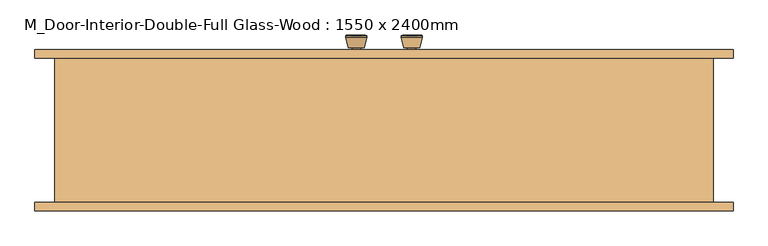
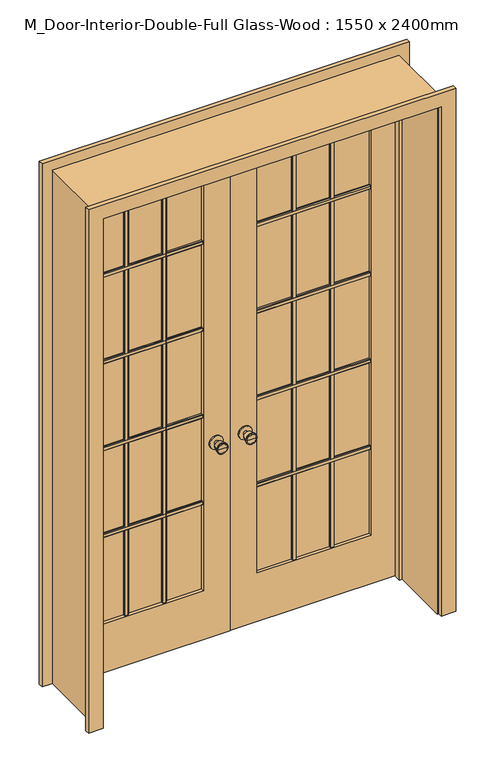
"""IFC4 building model written with IfcOpenShell, lengths in millimetres: door geometry, M_Door-Interior-Double-Full Glass-Wood : 1550 x 2400mm."""

import ifcopenshell
import ifcopenshell.guid

model = None  # the IFC model being written
_history = None  # IfcOwnerHistory: only IFC2X3 demands one
_inside = {}  # id of a spatial element -> (the spatial element, [elements in it])
_under = {}  # id of a project, library or spatial element -> (it, [spatial elements below it])
_declared = {}  # id of a project -> (the project, [libraries it declares])
_typed = {}  # id of a type object -> (the type object, [elements of that type])
_made_of = {}  # id of a material, layer set ... -> (it, [elements and type objects made of it])


def new_model(schema):
    """Start an empty IFC model of exactly this schema.

    Asked for "IFC4X3", IfcOpenShell would pick the latest addendum, in which some entities
    have other attributes; the version numbers below select the first issue.
    IFC2X3 requires an IfcOwnerHistory on every rooted entity: one is made here for all.
    """
    global model, _history
    if schema == "IFC4X3":
        model = ifcopenshell.file(schema_version=(4, 3, 0, 0))
    else:
        model = ifcopenshell.file(schema=schema)
    _inside.clear()
    _under.clear()
    _declared.clear()
    _typed.clear()
    _made_of.clear()
    _history = None
    if model.schema == "IFC2X3":
        org = make("IfcOrganization", Name="unknown")
        user = make(
            "IfcPersonAndOrganization",
            ThePerson=make("IfcPerson", FamilyName="unknown"),
            TheOrganization=org,
        )
        app = make(
            "IfcApplication",
            ApplicationDeveloper=org,
            Version="unknown",
            ApplicationFullName="unknown",
            ApplicationIdentifier="unknown",
        )
        _history = make(
            "IfcOwnerHistory",
            OwningUser=user,
            OwningApplication=app,
            ChangeAction="ADDED",
            CreationDate=0,
        )
    return model


def make(cls, **values):
    """One entity of the class cls with the attributes given. An attribute that is None is left unset."""
    return model.create_entity(
        cls, **{name: value for name, value in values.items() if value is not None}
    )


def rooted(cls, **values):
    """An entity with a GlobalId (a new one), such as an element, a storey or a relation."""
    return make(cls, GlobalId=ifcopenshell.guid.new(), OwnerHistory=_history, **values)


def si_unit(unit_type, name, prefix=None):
    """IfcSIUnit, for example si_unit("LENGTHUNIT", "METRE", prefix="MILLI")."""
    return make("IfcSIUnit", UnitType=unit_type, Prefix=prefix, Name=name)


def assignment(units):
    """IfcUnitAssignment: the units of a project."""
    return None if units is None else make("IfcUnitAssignment", Units=units)


def point(xyz):
    """IfcCartesianPoint."""
    return None if xyz is None else make("IfcCartesianPoint", Coordinates=xyz)


def direction(xyz):
    """IfcDirection."""
    return None if xyz is None else make("IfcDirection", DirectionRatios=xyz)


def frame(location, z_axis=None, x_axis=None):
    """IfcAxis2Placement3D, a coordinate frame: its origin and axes. An axis left out is left unset."""
    return make(
        "IfcAxis2Placement3D",
        Location=point(location),
        Axis=direction(z_axis),
        RefDirection=direction(x_axis),
    )


def frame_2d(location, x_axis=None):
    """IfcAxis2Placement2D, a coordinate frame in the plane: its origin and x axis."""
    return make(
        "IfcAxis2Placement2D", Location=point(location), RefDirection=direction(x_axis)
    )


def origin():
    """The frame at (0, 0, 0) with its axes left unset."""
    return frame((0.0, 0.0, 0.0))


def place(relative_to, where):
    """IfcLocalPlacement: puts the frame where relative to a parent placement (None: the world)."""
    return make(
        "IfcLocalPlacement", PlacementRelTo=relative_to, RelativePlacement=where
    )


def context(
    kind, dimensions, precision=None, world=None, true_north=None, identifier=None
):
    """IfcGeometricRepresentationContext, for example the 3D "Model" context."""
    return make(
        "IfcGeometricRepresentationContext",
        ContextIdentifier=identifier,
        ContextType=kind,
        CoordinateSpaceDimension=dimensions,
        Precision=precision,
        WorldCoordinateSystem=world,
        TrueNorth=true_north,
    )


def project(units=None, contexts=None):
    """IfcProject with its units and contexts."""
    return rooted(
        "IfcProject",
        Name="project",
        RepresentationContexts=contexts,
        UnitsInContext=assignment(units),
    )


def spatial(cls, under=None, at=None, **own):
    """A site, building, storey or space (cls), placed at a placement, below another one or the project."""
    s = rooted(cls, ObjectPlacement=at, **own)
    if under is not None:
        _under.setdefault(under.id(), (under, []))[1].append(s)
    return s


def polyline(points):
    """IfcPolyline through the points."""
    return make("IfcPolyline", Points=[point(p) for p in points])


def circle_curve(where, radius):
    """IfcCircle in the frame where."""
    return make("IfcCircle", Position=where, Radius=radius)


def trimmed(basis, trim1, trim2, sense, master):
    """IfcTrimmedCurve: the piece of a basis curve between two trims."""
    return make(
        "IfcTrimmedCurve",
        BasisCurve=basis,
        Trim1=trim1,
        Trim2=trim2,
        SenseAgreement=sense,
        MasterRepresentation=master,
    )


def segment(curve, same_sense, transition):
    """IfcCompositeCurveSegment."""
    return make(
        "IfcCompositeCurveSegment",
        Transition=transition,
        SameSense=same_sense,
        ParentCurve=curve,
    )


def composite_curve(segments, self_intersect=None):
    """IfcCompositeCurve: segments joined end to end."""
    return make("IfcCompositeCurve", Segments=segments, SelfIntersect=self_intersect)


def outline(outer, holes=None, kind="AREA"):
    """IfcArbitraryClosedProfileDef: a profile drawn as a closed curve; with holes, ...WithVoids."""
    if holes is None:
        return make("IfcArbitraryClosedProfileDef", ProfileType=kind, OuterCurve=outer)
    return make(
        "IfcArbitraryProfileDefWithVoids",
        ProfileType=kind,
        OuterCurve=outer,
        InnerCurves=holes,
    )


def extrude(swept, where, along, depth):
    """IfcExtrudedAreaSolid: the profile swept, set in the frame where, extruded along a direction by depth."""
    return make(
        "IfcExtrudedAreaSolid",
        SweptArea=swept,
        Position=where,
        ExtrudedDirection=direction(along),
        Depth=depth,
    )


def faces_of(points, faces, orient=None, outer=None):
    """IfcFace entities. A face is a list of loops; a loop is a list of indices into points, from 0.

    orient and outer hold one flag for each loop. By default every Orientation is true, the
    first loop of a face is its IfcFaceOuterBound and the others are IfcFaceBound.
    """
    made = []
    for i, loops in enumerate(faces):
        bounds = []
        for j, loop in enumerate(loops):
            is_outer = j == 0 if outer is None else outer[i][j]
            bounds.append(
                make(
                    "IfcFaceOuterBound" if is_outer else "IfcFaceBound",
                    Bound=make("IfcPolyLoop", Polygon=[points[k] for k in loop]),
                    Orientation=True if orient is None else orient[i][j],
                )
            )
        made.append(make("IfcFace", Bounds=bounds))
    return made


def faceted_brep(points, faces, orient=None, outer=None, voids=None):
    """IfcFacetedBrep: a solid bounded by flat faces; with voids (closed shells), ...WithVoids."""
    shared = [point(p) for p in points]
    hull = make("IfcClosedShell", CfsFaces=faces_of(shared, faces, orient, outer))
    if voids is None:
        return make("IfcFacetedBrep", Outer=hull)
    return make(
        "IfcFacetedBrepWithVoids",
        Outer=hull,
        Voids=[
            make(cls, CfsFaces=faces_of(shared, fs, o, b)) for cls, fs, o, b in voids
        ],
    )


def shape(context_of_items, identifier, shape_type, items):
    """IfcShapeRepresentation: the items that make up one representation, for example the "Body"."""
    return make(
        "IfcShapeRepresentation",
        ContextOfItems=context_of_items,
        RepresentationIdentifier=identifier,
        RepresentationType=shape_type,
        Items=items,
    )


def source(mapping_origin, context_of_items, identifier, shape_type, items):
    """IfcRepresentationMap: a shape defined once, which mapped items show again and again."""
    return make(
        "IfcRepresentationMap",
        MappingOrigin=mapping_origin,
        MappedRepresentation=shape(context_of_items, identifier, shape_type, items),
    )


def transform(
    local_origin,
    x_axis=None,
    y_axis=None,
    z_axis=None,
    scale=None,
    scale2=None,
    scale3=None,
    uniform=True,
):
    """IfcCartesianTransformationOperator3D, or its non-uniform kind. x_axis, y_axis, z_axis: its Axis1, 2, 3."""
    if uniform:
        return make(
            "IfcCartesianTransformationOperator3D",
            Axis1=direction(x_axis),
            Axis2=direction(y_axis),
            LocalOrigin=point(local_origin),
            Scale=scale,
            Axis3=direction(z_axis),
        )
    return make(
        "IfcCartesianTransformationOperator3DnonUniform",
        Axis1=direction(x_axis),
        Axis2=direction(y_axis),
        LocalOrigin=point(local_origin),
        Scale=scale,
        Axis3=direction(z_axis),
        Scale2=scale2,
        Scale3=scale3,
    )


def mapped(mapping_source, mapping_target):
    """IfcMappedItem: shows the shape of a source again, moved by a transform."""
    return make(
        "IfcMappedItem", MappingSource=mapping_source, MappingTarget=mapping_target
    )


def made_of(thing, what):
    """Note that an element or type object is made of a material, layer set ...; save() writes the relation."""
    if what is not None:
        _made_of.setdefault(what.id(), (what, []))[1].append(thing)
    return thing


def element(
    cls,
    number,
    at=None,
    inside=None,
    cuts=None,
    type_object=None,
    material=None,
    context=None,
    identifier="Body",
    shape_type=None,
    held_by="IfcProductDefinitionShape",
    body=None,
    shapes=None,
    **own,
):
    """One element of the class cls, such as IfcWall. Its Tag is "e" and its number.

    at: its placement. inside: the storey or other place that contains it. cuts: it is an
    opening in that element (IfcRelVoidsElement). A single representation is given by context,
    identifier, shape_type and body (its items); several are given by shapes. held_by: the class
    of the entity that holds the representations. save() writes the other relations.
    """
    e = rooted(cls, Tag="e%d" % number, ObjectPlacement=at, **own)
    if body is not None:
        shapes = [shape(context, identifier, shape_type, body)]
    if shapes is not None:
        e.Representation = make(held_by, Representations=shapes)
    if inside is not None:
        _inside.setdefault(inside.id(), (inside, []))[1].append(e)
    if cuts is not None:
        rooted(
            "IfcRelVoidsElement", RelatingBuildingElement=cuts, RelatedOpeningElement=e
        )
    if type_object is not None:
        _typed.setdefault(type_object.id(), (type_object, []))[1].append(e)
    return made_of(e, material)


def aggregate(whole, parts):
    """IfcRelAggregates: a whole, such as a stair, and the parts it consists of."""
    return rooted("IfcRelAggregates", RelatingObject=whole, RelatedObjects=parts)


def save(model, path):
    """Write the relations noted so far, then the file.

    IfcRelAggregates (storeys below a building ...), IfcRelContainedInSpatialStructure (elements
    in a storey), IfcRelDefinesByType, IfcRelAssociatesMaterial and IfcRelDeclares: one each for
    every whole, place, type object, material and project.
    """
    for whole, parts in _under.values():
        aggregate(whole, parts)
    for where, things in _inside.values():
        rooted(
            "IfcRelContainedInSpatialStructure",
            RelatedElements=things,
            RelatingStructure=where,
        )
    for kind, things in _typed.values():
        rooted("IfcRelDefinesByType", RelatedObjects=things, RelatingType=kind)
    for what, things in _made_of.values():
        rooted("IfcRelAssociatesMaterial", RelatedObjects=things, RelatingMaterial=what)
    for by, libraries in _declared.values():
        rooted("IfcRelDeclares", RelatingContext=by, RelatedDefinitions=libraries)
    model.write(path)


def plane_surface(at):
    """IfcPlane: the flat surface through the origin of the frame at, square to its z axis."""
    return make("IfcPlane", Position=at)


def cylinder_surface(at, radius):
    """IfcCylindricalSurface: all points at the distance radius from the z axis of the frame at."""
    return make("IfcCylindricalSurface", Position=at, Radius=radius)


def revolved_surface(curve, axis_point, axis_direction):
    """IfcSurfaceOfRevolution: the curve turned about the line through axis_point along axis_direction."""
    return make(
        "IfcSurfaceOfRevolution",
        SweptCurve=make("IfcArbitraryOpenProfileDef", ProfileType="CURVE", Curve=curve),
        AxisPosition=make("IfcAxis1Placement", Location=point(axis_point), Axis=direction(axis_direction)),
    )


def advanced_brep(points, edges, surfaces, faces):
    """IfcAdvancedBrep: a solid bounded by faces that lie on surfaces and meet in shared edges.

    An edge is (start, end): straight between two places in points (the first is 0);
    or (start, end, curve); or (start, end, curve, False) where it runs against its curve.
    A face is (place in surfaces, loops), or (place, loops, False) where it looks against
    its surface's normal. A loop lists edges by number (the first is 1), with a minus sign
    where the edge is run from its end to its start. The first loop is the outer one.
    """
    corners = [point(p) for p in points]
    vertices = [make("IfcVertexPoint", VertexGeometry=c) for c in corners]
    made = []
    for start, end, *more in edges:
        made.append(
            make(
                "IfcEdgeCurve",
                EdgeStart=vertices[start],
                EdgeEnd=vertices[end],
                EdgeGeometry=more[0] if more else make("IfcPolyline", Points=[corners[start], corners[end]]),
                SameSense=more[1] if len(more) > 1 else True,
            )
        )
    hull = []
    for where, loops, *sense in faces:
        bounds = []
        for j, loop in enumerate(loops):
            ring = [make("IfcOrientedEdge", EdgeElement=made[abs(k) - 1], Orientation=k > 0) for k in loop]
            bounds.append(
                make(
                    "IfcFaceOuterBound" if j == 0 else "IfcFaceBound",
                    Bound=make("IfcEdgeLoop", EdgeList=ring),
                    Orientation=True,
                )
            )
        hull.append(make("IfcAdvancedFace", Bounds=bounds, FaceSurface=surfaces[where], SameSense=sense[0] if sense else True))
    return make("IfcAdvancedBrep", Outer=make("IfcClosedShell", CfsFaces=hull))


def m_door_interior_double_full_glass_wood_1550_x_2400mm_287b3f01(model_context):
    return source(origin(), model_context, "Body", "SolidModel", [
        advanced_brep(
        [(-65.0, 172.825, 914.4), (-75.0, 172.825, 914.4), (-55.0, 172.825, 914.4), (-85.4758676, 221.825, 914.4), (-65.0, 221.825, 914.4), (-44.5241324, 221.825, 914.4), (-90.0, 219.9971319, 914.4), (-40.0, 219.9971319, 914.4), (-90.0, 216.5334537, 914.4), (-40.0, 216.5334537, 914.4), (-83.636236, 191.825, 914.4), (-46.363764, 191.825, 914.4), (-75.0, 191.825, 914.4), (-55.0, 191.825, 914.4)],
        [
            (0, 1),
            (1, 2, circle_curve(frame((-65.0, 172.825, 914.4), z_axis=(0.0, -1.0, 0.0), x_axis=(1.0, 0.0, 0.0)), 10.0)),
            (2, 0),
            (2, 1, circle_curve(frame((-65.0, 172.825, 914.4), z_axis=(0.0, -1.0, 0.0), x_axis=(1.0, 0.0, 0.0)), 10.0)),
            (3, 4),
            (4, 5),
            (5, 3, circle_curve(frame((-65.0, 221.825, 914.4), z_axis=(0.0, 1.0, 0.0), x_axis=(1.0, 0.0, 0.0)), 20.4758676)),
            (3, 5, circle_curve(frame((-65.0, 221.825, 914.4), z_axis=(0.0, 1.0, 0.0), x_axis=(1.0, 0.0, 0.0)), 20.4758676)),
            (6, 3),
            (5, 7),
            (7, 6, circle_curve(frame((-65.0, 219.9971319, 914.4), z_axis=(0.0, 1.0, 0.0), x_axis=(1.0, 0.0, 0.0)), 25.0)),
            (6, 7, circle_curve(frame((-65.0, 219.9971319, 914.4), z_axis=(0.0, 1.0, 0.0), x_axis=(1.0, 0.0, 0.0)), 25.0)),
            (8, 6),
            (7, 9),
            (9, 8, circle_curve(frame((-65.0, 216.5334537, 914.4), z_axis=(0.0, 1.0, 0.0), x_axis=(1.0, 0.0, 0.0)), 25.0)),
            (8, 9, circle_curve(frame((-65.0, 216.5334537, 914.4), z_axis=(0.0, 1.0, 0.0), x_axis=(1.0, 0.0, 0.0)), 25.0)),
            (10, 8),
            (9, 11),
            (11, 10, circle_curve(frame((-65.0, 191.825, 914.4), z_axis=(0.0, 1.0, 0.0), x_axis=(1.0, 0.0, 0.0)), 18.636236)),
            (10, 11, circle_curve(frame((-65.0, 191.825, 914.4), z_axis=(0.0, 1.0, 0.0), x_axis=(1.0, 0.0, 0.0)), 18.636236)),
            (12, 10),
            (11, 13),
            (13, 12, circle_curve(frame((-65.0, 191.825, 914.4), z_axis=(0.0, 1.0, 0.0), x_axis=(1.0, 0.0, 0.0)), 10.0)),
            (12, 13, circle_curve(frame((-65.0, 191.825, 914.4), z_axis=(0.0, 1.0, 0.0), x_axis=(1.0, 0.0, 0.0)), 10.0)),
            (1, 12),
            (13, 2),
        ],
        [
            plane_surface(frame((-65.0, 172.825, 914.4), z_axis=(0.0, -1.0, 0.0), x_axis=(1.0, 0.0, 0.0))),
            plane_surface(frame((-65.0, 221.825, 914.4), z_axis=(0.0, 1.0, 0.0), x_axis=(1.0, 0.0, 0.0))),
            revolved_surface(polyline([(-44.5241324, 221.825, 914.4), (-40.0, 219.9971319, 914.4)]), (-65.0, 172.825, 914.4), (0.0, -1.0, 0.0)),
            cylinder_surface(frame((-65.0, 172.825, 914.4), z_axis=(0.0, -1.0, 0.0), x_axis=(1.0, 0.0, 0.0)), 25.0),
            revolved_surface(polyline([(-40.0, 216.5334537, 914.4), (-46.363764, 191.825, 914.4)]), (-65.0, 172.825, 914.4), (0.0, -1.0, 0.0)),
            plane_surface(frame((-65.0, 191.825, 914.4), z_axis=(0.0, -1.0, 0.0), x_axis=(1.0, 0.0, 0.0))),
            cylinder_surface(frame((-65.0, 172.825, 914.4), z_axis=(0.0, -1.0, 0.0), x_axis=(1.0, 0.0, 0.0)), 10.0),
        ],
        [
            (0, [[1, 2, 3]]),
            (0, [[-3, 4, -1]]),
            (1, [[5, 6, 7]]),
            (1, [[-6, -5, 8]]),
            (2, [[9, -7, 10, 11]]),
            (2, [[-10, -8, -9, 12]]),
            (3, [[13, -11, 14, 15]]),
            (3, [[-14, -12, -13, 16]]),
            (4, [[17, -15, 18, 19]]),
            (4, [[-18, -16, -17, 20]]),
            (5, [[21, -19, 22, 23]]),
            (5, [[-22, -20, -21, 24]]),
            (6, [[25, -23, 26, -2]]),
            (6, [[-26, -24, -25, -4]]),
        ],
    ),
        extrude(outline(composite_curve([segment(trimmed(circle_curve(frame_2d((914.4, -65.0)), 30.0), [point((914.4, -35.0))], [point((914.4, -95.0))], False, "CARTESIAN"), True, "CONTINUOUS"), segment(trimmed(circle_curve(frame_2d((914.4, -65.0)), 30.0), [point((914.4, -95.0))], [point((914.4, -35.0))], False, "CARTESIAN"), True, "CONTINUOUS")], self_intersect=False)), frame((0.0, 166.825, 0.0), z_axis=(0.0, 1.0, 0.0), x_axis=(0.0, 0.0, 1.0)), (0.0, 0.0, 1.0), 6.0),
        advanced_brep(
        [(-65.0, 125.825, 914.4), (-55.0, 125.825, 914.4), (-75.0, 125.825, 914.4), (-85.4758676, 76.825, 914.4), (-44.5241324, 76.825, 914.4), (-65.0, 76.825, 914.4), (-90.0, 78.6528681, 914.4), (-40.0, 78.6528681, 914.4), (-90.0, 82.1165463, 914.4), (-40.0, 82.1165463, 914.4), (-83.636236, 106.825, 914.4), (-46.363764, 106.825, 914.4), (-75.0, 106.825, 914.4), (-55.0, 106.825, 914.4)],
        [
            (0, 1),
            (1, 2, circle_curve(frame((-65.0, 125.825, 914.4), z_axis=(0.0, 1.0, 0.0), x_axis=(1.0, 0.0, 0.0)), 10.0)),
            (2, 0),
            (2, 1, circle_curve(frame((-65.0, 125.825, 914.4), z_axis=(0.0, 1.0, 0.0), x_axis=(1.0, 0.0, 0.0)), 10.0)),
            (3, 4, circle_curve(frame((-65.0, 76.825, 914.4), z_axis=(0.0, -1.0, 0.0), x_axis=(1.0, 0.0, 0.0)), 20.4758676)),
            (4, 5),
            (5, 3),
            (4, 3, circle_curve(frame((-65.0, 76.825, 914.4), z_axis=(0.0, -1.0, 0.0), x_axis=(1.0, 0.0, 0.0)), 20.4758676)),
            (6, 7, circle_curve(frame((-65.0, 78.6528681, 914.4), z_axis=(0.0, -1.0, 0.0), x_axis=(1.0, 0.0, 0.0)), 25.0)),
            (7, 4),
            (3, 6),
            (7, 6, circle_curve(frame((-65.0, 78.6528681, 914.4), z_axis=(0.0, -1.0, 0.0), x_axis=(1.0, 0.0, 0.0)), 25.0)),
            (8, 9, circle_curve(frame((-65.0, 82.1165463, 914.4), z_axis=(0.0, -1.0, 0.0), x_axis=(1.0, 0.0, 0.0)), 25.0)),
            (9, 7),
            (6, 8),
            (9, 8, circle_curve(frame((-65.0, 82.1165463, 914.4), z_axis=(0.0, -1.0, 0.0), x_axis=(1.0, 0.0, 0.0)), 25.0)),
            (10, 11, circle_curve(frame((-65.0, 106.825, 914.4), z_axis=(0.0, -1.0, 0.0), x_axis=(1.0, 0.0, 0.0)), 18.636236)),
            (11, 9),
            (8, 10),
            (11, 10, circle_curve(frame((-65.0, 106.825, 914.4), z_axis=(0.0, -1.0, 0.0), x_axis=(1.0, 0.0, 0.0)), 18.636236)),
            (12, 13, circle_curve(frame((-65.0, 106.825, 914.4), z_axis=(0.0, -1.0, 0.0), x_axis=(1.0, 0.0, 0.0)), 10.0)),
            (13, 11),
            (10, 12),
            (13, 12, circle_curve(frame((-65.0, 106.825, 914.4), z_axis=(0.0, -1.0, 0.0), x_axis=(1.0, 0.0, 0.0)), 10.0)),
            (1, 13),
            (12, 2),
        ],
        [
            plane_surface(frame((-65.0, 125.825, 914.4), z_axis=(0.0, 1.0, 0.0), x_axis=(1.0, 0.0, 0.0))),
            plane_surface(frame((-65.0, 76.825, 914.4), z_axis=(0.0, -1.0, 0.0), x_axis=(1.0, 0.0, 0.0))),
            revolved_surface(polyline([(-44.5241324, 76.825, 914.4), (-40.0, 78.6528681, 914.4)]), (-65.0, 125.825, 914.4), (0.0, 1.0, 0.0)),
            cylinder_surface(frame((-65.0, 125.825, 914.4), z_axis=(0.0, 1.0, 0.0), x_axis=(1.0, 0.0, 0.0)), 25.0),
            revolved_surface(polyline([(-40.0, 82.1165463, 914.4), (-46.363764, 106.825, 914.4)]), (-65.0, 125.825, 914.4), (0.0, 1.0, 0.0)),
            plane_surface(frame((-65.0, 106.825, 914.4), z_axis=(0.0, 1.0, 0.0), x_axis=(1.0, 0.0, 0.0))),
            cylinder_surface(frame((-65.0, 125.825, 914.4), z_axis=(0.0, 1.0, 0.0), x_axis=(1.0, 0.0, 0.0)), 10.0),
        ],
        [
            (0, [[1, 2, 3]]),
            (0, [[-3, 4, -1]]),
            (1, [[5, 6, 7]]),
            (1, [[8, -7, -6]]),
            (2, [[9, 10, -5, 11]]),
            (2, [[12, -11, -8, -10]]),
            (3, [[13, 14, -9, 15]]),
            (3, [[16, -15, -12, -14]]),
            (4, [[17, 18, -13, 19]]),
            (4, [[20, -19, -16, -18]]),
            (5, [[21, 22, -17, 23]]),
            (5, [[24, -23, -20, -22]]),
            (6, [[-2, 25, -21, 26]]),
            (6, [[-4, -26, -24, -25]]),
        ],
    ),
        extrude(outline(composite_curve([segment(trimmed(circle_curve(frame_2d((914.4, -65.0)), 30.0), [point((914.4, -35.0))], [point((914.4, -95.0))], False, "CARTESIAN"), True, "CONTINUOUS"), segment(trimmed(circle_curve(frame_2d((914.4, -65.0)), 30.0), [point((914.4, -95.0))], [point((914.4, -35.0))], False, "CARTESIAN"), True, "CONTINUOUS")], self_intersect=False)), frame((0.0, 125.825, 0.0), z_axis=(0.0, 1.0, 0.0), x_axis=(0.0, 0.0, 1.0)), (0.0, 0.0, 1.0), 6.0),
        extrude(outline(polyline([(145.825, 1879.525), (145.825, 1860.475), (139.475, 1860.475), (136.3, 1863.65), (136.3, 1876.35), (139.475, 1879.525), (145.825, 1879.525)])), frame((120.0, 0.0, 0.0), z_axis=(1.0, 0.0, 0.0), x_axis=(0.0, 1.0, 0.0)), (0.0, 0.0, 1.0), 510.0),
        extrude(outline(polyline([(145.825, 1469.525), (145.825, 1450.475), (139.475, 1450.475), (136.3, 1453.65), (136.3, 1466.35), (139.475, 1469.525), (145.825, 1469.525)])), frame((120.0, 0.0, 0.0), z_axis=(1.0, 0.0, 0.0), x_axis=(0.0, 1.0, 0.0)), (0.0, 0.0, 1.0), 510.0),
        extrude(outline(polyline([(145.825, 1059.525), (145.825, 1040.475), (139.475, 1040.475), (136.3, 1043.65), (136.3, 1056.35), (139.475, 1059.525), (145.825, 1059.525)])), frame((120.0, 0.0, 0.0), z_axis=(1.0, 0.0, 0.0), x_axis=(0.0, 1.0, 0.0)), (0.0, 0.0, 1.0), 510.0),
        extrude(outline(polyline([(145.825, 649.525), (145.825, 630.475), (139.475, 630.475), (136.3, 633.65), (136.3, 646.35), (139.475, 649.525), (145.825, 649.525)])), frame((120.0, 0.0, 0.0), z_axis=(1.0, 0.0, 0.0), x_axis=(0.0, 1.0, 0.0)), (0.0, 0.0, 1.0), 510.0),
        extrude(outline(polyline([(450.475, 145.825), (469.525, 145.825), (469.525, 139.475), (466.35, 136.3), (453.65, 136.3), (450.475, 139.475), (450.475, 145.825)])), frame((0.0, 0.0, 230.0), z_axis=(0.0, 0.0, 1.0), x_axis=(1.0, 0.0, 0.0)), (0.0, 0.0, 1.0), 2050.0),
        extrude(outline(polyline([(280.475, 145.825), (299.525, 145.825), (299.525, 139.475), (296.35, 136.3), (283.65, 136.3), (280.475, 139.475), (280.475, 145.825)])), frame((0.0, 0.0, 230.0), z_axis=(0.0, 0.0, 1.0), x_axis=(1.0, 0.0, 0.0)), (0.0, 0.0, 1.0), 2050.0),
        extrude(outline(polyline([(152.825, 1879.525), (159.175, 1879.525), (162.35, 1876.35), (162.35, 1863.65), (159.175, 1860.475), (152.825, 1860.475), (152.825, 1879.525)])), frame((-630.0, 0.0, 0.0), z_axis=(1.0, 0.0, 0.0), x_axis=(0.0, 1.0, 0.0)), (0.0, 0.0, 1.0), 510.0),
        extrude(outline(polyline([(152.825, 1469.525), (159.175, 1469.525), (162.35, 1466.35), (162.35, 1453.65), (159.175, 1450.475), (152.825, 1450.475), (152.825, 1469.525)])), frame((-630.0, 0.0, 0.0), z_axis=(1.0, 0.0, 0.0), x_axis=(0.0, 1.0, 0.0)), (0.0, 0.0, 1.0), 510.0),
        extrude(outline(polyline([(152.825, 1059.525), (159.175, 1059.525), (162.35, 1056.35), (162.35, 1043.65), (159.175, 1040.475), (152.825, 1040.475), (152.825, 1059.525)])), frame((-630.0, 0.0, 0.0), z_axis=(1.0, 0.0, 0.0), x_axis=(0.0, 1.0, 0.0)), (0.0, 0.0, 1.0), 510.0),
        extrude(outline(polyline([(152.825, 649.525), (159.175, 649.525), (162.35, 646.35), (162.35, 633.65), (159.175, 630.475), (152.825, 630.475), (152.825, 649.525)])), frame((-630.0, 0.0, 0.0), z_axis=(1.0, 0.0, 0.0), x_axis=(0.0, 1.0, 0.0)), (0.0, 0.0, 1.0), 510.0),
        extrude(outline(polyline([(-299.525, 152.825), (-299.525, 159.175), (-296.35, 162.35), (-283.65, 162.35), (-280.475, 159.175), (-280.475, 152.825), (-299.525, 152.825)])), frame((0.0, 0.0, 230.0), z_axis=(0.0, 0.0, 1.0), x_axis=(1.0, 0.0, 0.0)), (0.0, 0.0, 1.0), 2050.0),
        extrude(outline(polyline([(-469.525, 152.825), (-469.525, 159.175), (-466.35, 162.35), (-453.65, 162.35), (-450.475, 159.175), (-450.475, 152.825), (-469.525, 152.825)])), frame((0.0, 0.0, 230.0), z_axis=(0.0, 0.0, 1.0), x_axis=(1.0, 0.0, 0.0)), (0.0, 0.0, 1.0), 2050.0),
        extrude(outline(polyline([(152.825, 1879.525), (159.175, 1879.525), (162.35, 1876.35), (162.35, 1863.65), (159.175, 1860.475), (152.825, 1860.475), (152.825, 1879.525)])), frame((120.0, 0.0, 0.0), z_axis=(1.0, 0.0, 0.0), x_axis=(0.0, 1.0, 0.0)), (0.0, 0.0, 1.0), 510.0),
        extrude(outline(polyline([(152.825, 1469.525), (159.175, 1469.525), (162.35, 1466.35), (162.35, 1453.65), (159.175, 1450.475), (152.825, 1450.475), (152.825, 1469.525)])), frame((120.0, 0.0, 0.0), z_axis=(1.0, 0.0, 0.0), x_axis=(0.0, 1.0, 0.0)), (0.0, 0.0, 1.0), 510.0),
        extrude(outline(polyline([(152.825, 1059.525), (159.175, 1059.525), (162.35, 1056.35), (162.35, 1043.65), (159.175, 1040.475), (152.825, 1040.475), (152.825, 1059.525)])), frame((120.0, 0.0, 0.0), z_axis=(1.0, 0.0, 0.0), x_axis=(0.0, 1.0, 0.0)), (0.0, 0.0, 1.0), 510.0),
        extrude(outline(polyline([(152.825, 649.525), (159.175, 649.525), (162.35, 646.35), (162.35, 633.65), (159.175, 630.475), (152.825, 630.475), (152.825, 649.525)])), frame((120.0, 0.0, 0.0), z_axis=(1.0, 0.0, 0.0), x_axis=(0.0, 1.0, 0.0)), (0.0, 0.0, 1.0), 510.0),
        extrude(outline(polyline([(450.475, 152.825), (450.475, 159.175), (453.65, 162.35), (466.35, 162.35), (469.525, 159.175), (469.525, 152.825), (450.475, 152.825)])), frame((0.0, 0.0, 230.0), z_axis=(0.0, 0.0, 1.0), x_axis=(1.0, 0.0, 0.0)), (0.0, 0.0, 1.0), 2050.0),
        extrude(outline(polyline([(280.475, 152.825), (280.475, 159.175), (283.65, 162.35), (296.35, 162.35), (299.525, 159.175), (299.525, 152.825), (280.475, 152.825)])), frame((0.0, 0.0, 230.0), z_axis=(0.0, 0.0, 1.0), x_axis=(1.0, 0.0, 0.0)), (0.0, 0.0, 1.0), 2050.0),
        extrude(outline(polyline([(145.825, 1879.525), (145.825, 1860.475), (139.475, 1860.475), (136.3, 1863.65), (136.3, 1876.35), (139.475, 1879.525), (145.825, 1879.525)])), frame((-630.0, 0.0, 0.0), z_axis=(1.0, 0.0, 0.0), x_axis=(0.0, 1.0, 0.0)), (0.0, 0.0, 1.0), 510.0),
        extrude(outline(polyline([(145.825, 1469.525), (145.825, 1450.475), (139.475, 1450.475), (136.3, 1453.65), (136.3, 1466.35), (139.475, 1469.525), (145.825, 1469.525)])), frame((-630.0, 0.0, 0.0), z_axis=(1.0, 0.0, 0.0), x_axis=(0.0, 1.0, 0.0)), (0.0, 0.0, 1.0), 510.0),
        extrude(outline(polyline([(145.825, 1059.525), (145.825, 1040.475), (139.475, 1040.475), (136.3, 1043.65), (136.3, 1056.35), (139.475, 1059.525), (145.825, 1059.525)])), frame((-630.0, 0.0, 0.0), z_axis=(1.0, 0.0, 0.0), x_axis=(0.0, 1.0, 0.0)), (0.0, 0.0, 1.0), 510.0),
        extrude(outline(polyline([(145.825, 649.525), (145.825, 630.475), (139.475, 630.475), (136.3, 633.65), (136.3, 646.35), (139.475, 649.525), (145.825, 649.525)])), frame((-630.0, 0.0, 0.0), z_axis=(1.0, 0.0, 0.0), x_axis=(0.0, 1.0, 0.0)), (0.0, 0.0, 1.0), 510.0),
        extrude(outline(polyline([(-299.525, 145.825), (-280.475, 145.825), (-280.475, 139.475), (-283.65, 136.3), (-296.35, 136.3), (-299.525, 139.475), (-299.525, 145.825)])), frame((0.0, 0.0, 230.0), z_axis=(0.0, 0.0, 1.0), x_axis=(1.0, 0.0, 0.0)), (0.0, 0.0, 1.0), 2050.0),
        extrude(outline(polyline([(-469.525, 145.825), (-450.475, 145.825), (-450.475, 139.475), (-453.65, 136.3), (-466.35, 136.3), (-469.525, 139.475), (-469.525, 145.825)])), frame((0.0, 0.0, 230.0), z_axis=(0.0, 0.0, 1.0), x_axis=(1.0, 0.0, 0.0)), (0.0, 0.0, 1.0), 2050.0),
        advanced_brep(
        [(65.0, 125.825, 914.4), (75.0, 125.825, 914.4), (55.0, 125.825, 914.4), (85.4758676, 76.825, 914.4), (65.0, 76.825, 914.4), (44.5241324, 76.825, 914.4), (90.0, 78.6528681, 914.4), (40.0, 78.6528681, 914.4), (90.0, 82.1165463, 914.4), (40.0, 82.1165463, 914.4), (83.636236, 106.825, 914.4), (46.363764, 106.825, 914.4), (75.0, 106.825, 914.4), (55.0, 106.825, 914.4)],
        [
            (0, 1),
            (1, 2, circle_curve(frame((65.0, 125.825, 914.4), z_axis=(0.0, 1.0, 0.0), x_axis=(-1.0, 0.0, 0.0)), 10.0)),
            (2, 0),
            (2, 1, circle_curve(frame((65.0, 125.825, 914.4), z_axis=(0.0, 1.0, 0.0), x_axis=(-1.0, 0.0, 0.0)), 10.0)),
            (3, 4),
            (4, 5),
            (5, 3, circle_curve(frame((65.0, 76.825, 914.4), z_axis=(0.0, -1.0, 0.0), x_axis=(-1.0, 0.0, 0.0)), 20.4758676)),
            (3, 5, circle_curve(frame((65.0, 76.825, 914.4), z_axis=(0.0, -1.0, 0.0), x_axis=(-1.0, 0.0, 0.0)), 20.4758676)),
            (6, 3),
            (5, 7),
            (7, 6, circle_curve(frame((65.0, 78.6528681, 914.4), z_axis=(0.0, -1.0, 0.0), x_axis=(-1.0, 0.0, 0.0)), 25.0)),
            (6, 7, circle_curve(frame((65.0, 78.6528681, 914.4), z_axis=(0.0, -1.0, 0.0), x_axis=(-1.0, 0.0, 0.0)), 25.0)),
            (8, 6),
            (7, 9),
            (9, 8, circle_curve(frame((65.0, 82.1165463, 914.4), z_axis=(0.0, -1.0, 0.0), x_axis=(-1.0, 0.0, 0.0)), 25.0)),
            (8, 9, circle_curve(frame((65.0, 82.1165463, 914.4), z_axis=(0.0, -1.0, 0.0), x_axis=(-1.0, 0.0, 0.0)), 25.0)),
            (10, 8),
            (9, 11),
            (11, 10, circle_curve(frame((65.0, 106.825, 914.4), z_axis=(0.0, -1.0, 0.0), x_axis=(-1.0, 0.0, 0.0)), 18.636236)),
            (10, 11, circle_curve(frame((65.0, 106.825, 914.4), z_axis=(0.0, -1.0, 0.0), x_axis=(-1.0, 0.0, 0.0)), 18.636236)),
            (12, 10),
            (11, 13),
            (13, 12, circle_curve(frame((65.0, 106.825, 914.4), z_axis=(0.0, -1.0, 0.0), x_axis=(-1.0, 0.0, 0.0)), 10.0)),
            (12, 13, circle_curve(frame((65.0, 106.825, 914.4), z_axis=(0.0, -1.0, 0.0), x_axis=(-1.0, 0.0, 0.0)), 10.0)),
            (1, 12),
            (13, 2),
        ],
        [
            plane_surface(frame((65.0, 125.825, 914.4), z_axis=(0.0, 1.0, 0.0), x_axis=(-1.0, 0.0, 0.0))),
            plane_surface(frame((65.0, 76.825, 914.4), z_axis=(0.0, -1.0, 0.0), x_axis=(-1.0, 0.0, 0.0))),
            revolved_surface(polyline([(44.5241324, 76.825, 914.4), (40.0, 78.6528681, 914.4)]), (65.0, 125.825, 914.4), (0.0, 1.0, 0.0)),
            cylinder_surface(frame((65.0, 125.825, 914.4), z_axis=(0.0, 1.0, 0.0), x_axis=(-1.0, 0.0, 0.0)), 25.0),
            revolved_surface(polyline([(40.0, 82.1165463, 914.4), (46.363764, 106.825, 914.4)]), (65.0, 125.825, 914.4), (0.0, 1.0, 0.0)),
            plane_surface(frame((65.0, 106.825, 914.4), z_axis=(0.0, 1.0, 0.0), x_axis=(-1.0, 0.0, 0.0))),
            cylinder_surface(frame((65.0, 125.825, 914.4), z_axis=(0.0, 1.0, 0.0), x_axis=(-1.0, 0.0, 0.0)), 10.0),
        ],
        [
            (0, [[1, 2, 3]]),
            (0, [[-3, 4, -1]]),
            (1, [[5, 6, 7]]),
            (1, [[-6, -5, 8]]),
            (2, [[9, -7, 10, 11]]),
            (2, [[-10, -8, -9, 12]]),
            (3, [[13, -11, 14, 15]]),
            (3, [[-14, -12, -13, 16]]),
            (4, [[17, -15, 18, 19]]),
            (4, [[-18, -16, -17, 20]]),
            (5, [[21, -19, 22, 23]]),
            (5, [[-22, -20, -21, 24]]),
            (6, [[25, -23, 26, -2]]),
            (6, [[-26, -24, -25, -4]]),
        ],
    ),
        extrude(outline(composite_curve([segment(trimmed(circle_curve(frame_2d((914.4, 65.0)), 30.0), [point((914.4, 35.0))], [point((914.4, 95.0))], False, "CARTESIAN"), True, "CONTINUOUS"), segment(trimmed(circle_curve(frame_2d((914.4, 65.0)), 30.0), [point((914.4, 95.0))], [point((914.4, 35.0))], False, "CARTESIAN"), True, "CONTINUOUS")], self_intersect=False)), frame((0.0, 125.825, 0.0), z_axis=(0.0, 1.0, 0.0), x_axis=(0.0, 0.0, 1.0)), (0.0, 0.0, 1.0), 6.0),
        advanced_brep(
        [(65.0, 172.825, 914.4), (55.0, 172.825, 914.4), (75.0, 172.825, 914.4), (85.4758676, 221.825, 914.4), (44.5241324, 221.825, 914.4), (65.0, 221.825, 914.4), (90.0, 219.9971319, 914.4), (40.0, 219.9971319, 914.4), (90.0, 216.5334537, 914.4), (40.0, 216.5334537, 914.4), (83.636236, 191.825, 914.4), (46.363764, 191.825, 914.4), (75.0, 191.825, 914.4), (55.0, 191.825, 914.4)],
        [
            (0, 1),
            (1, 2, circle_curve(frame((65.0, 172.825, 914.4), z_axis=(0.0, -1.0, 0.0), x_axis=(-1.0, 0.0, 0.0)), 10.0)),
            (2, 0),
            (2, 1, circle_curve(frame((65.0, 172.825, 914.4), z_axis=(0.0, -1.0, 0.0), x_axis=(-1.0, 0.0, 0.0)), 10.0)),
            (3, 4, circle_curve(frame((65.0, 221.825, 914.4), z_axis=(0.0, 1.0, 0.0), x_axis=(-1.0, 0.0, 0.0)), 20.4758676)),
            (4, 5),
            (5, 3),
            (4, 3, circle_curve(frame((65.0, 221.825, 914.4), z_axis=(0.0, 1.0, 0.0), x_axis=(-1.0, 0.0, 0.0)), 20.4758676)),
            (6, 7, circle_curve(frame((65.0, 219.9971319, 914.4), z_axis=(0.0, 1.0, 0.0), x_axis=(-1.0, 0.0, 0.0)), 25.0)),
            (7, 4),
            (3, 6),
            (7, 6, circle_curve(frame((65.0, 219.9971319, 914.4), z_axis=(0.0, 1.0, 0.0), x_axis=(-1.0, 0.0, 0.0)), 25.0)),
            (8, 9, circle_curve(frame((65.0, 216.5334537, 914.4), z_axis=(0.0, 1.0, 0.0), x_axis=(-1.0, 0.0, 0.0)), 25.0)),
            (9, 7),
            (6, 8),
            (9, 8, circle_curve(frame((65.0, 216.5334537, 914.4), z_axis=(0.0, 1.0, 0.0), x_axis=(-1.0, 0.0, 0.0)), 25.0)),
            (10, 11, circle_curve(frame((65.0, 191.825, 914.4), z_axis=(0.0, 1.0, 0.0), x_axis=(-1.0, 0.0, 0.0)), 18.636236)),
            (11, 9),
            (8, 10),
            (11, 10, circle_curve(frame((65.0, 191.825, 914.4), z_axis=(0.0, 1.0, 0.0), x_axis=(-1.0, 0.0, 0.0)), 18.636236)),
            (12, 13, circle_curve(frame((65.0, 191.825, 914.4), z_axis=(0.0, 1.0, 0.0), x_axis=(-1.0, 0.0, 0.0)), 10.0)),
            (13, 11),
            (10, 12),
            (13, 12, circle_curve(frame((65.0, 191.825, 914.4), z_axis=(0.0, 1.0, 0.0), x_axis=(-1.0, 0.0, 0.0)), 10.0)),
            (1, 13),
            (12, 2),
        ],
        [
            plane_surface(frame((65.0, 172.825, 914.4), z_axis=(0.0, -1.0, 0.0), x_axis=(-1.0, 0.0, 0.0))),
            plane_surface(frame((65.0, 221.825, 914.4), z_axis=(0.0, 1.0, 0.0), x_axis=(-1.0, 0.0, 0.0))),
            revolved_surface(polyline([(44.5241324, 221.825, 914.4), (40.0, 219.9971319, 914.4)]), (65.0, 172.825, 914.4), (0.0, -1.0, 0.0)),
            cylinder_surface(frame((65.0, 172.825, 914.4), z_axis=(0.0, -1.0, 0.0), x_axis=(-1.0, 0.0, 0.0)), 25.0),
            revolved_surface(polyline([(40.0, 216.5334537, 914.4), (46.363764, 191.825, 914.4)]), (65.0, 172.825, 914.4), (0.0, -1.0, 0.0)),
            plane_surface(frame((65.0, 191.825, 914.4), z_axis=(0.0, -1.0, 0.0), x_axis=(-1.0, 0.0, 0.0))),
            cylinder_surface(frame((65.0, 172.825, 914.4), z_axis=(0.0, -1.0, 0.0), x_axis=(-1.0, 0.0, 0.0)), 10.0),
        ],
        [
            (0, [[1, 2, 3]]),
            (0, [[-3, 4, -1]]),
            (1, [[5, 6, 7]]),
            (1, [[8, -7, -6]]),
            (2, [[9, 10, -5, 11]]),
            (2, [[12, -11, -8, -10]]),
            (3, [[13, 14, -9, 15]]),
            (3, [[16, -15, -12, -14]]),
            (4, [[17, 18, -13, 19]]),
            (4, [[20, -19, -16, -18]]),
            (5, [[21, 22, -17, 23]]),
            (5, [[24, -23, -20, -22]]),
            (6, [[-2, 25, -21, 26]]),
            (6, [[-4, -26, -24, -25]]),
        ],
    ),
        extrude(outline(composite_curve([segment(trimmed(circle_curve(frame_2d((914.4, 65.0)), 30.0), [point((914.4, 35.0))], [point((914.4, 95.0))], False, "CARTESIAN"), True, "CONTINUOUS"), segment(trimmed(circle_curve(frame_2d((914.4, 65.0)), 30.0), [point((914.4, 95.0))], [point((914.4, 35.0))], False, "CARTESIAN"), True, "CONTINUOUS")], self_intersect=False)), frame((0.0, 166.825, 0.0), z_axis=(0.0, 1.0, 0.0), x_axis=(0.0, 0.0, 1.0)), (0.0, 0.0, 1.0), 6.0),
        extrude(outline(polyline([(0.0, 756.35), (0.0, 821.35), (2471.35, 821.35), (2471.35, -821.35), (0.0, -821.35), (0.0, -756.35), (2406.35, -756.35), (2406.35, 756.35), (0.0, 756.35)])), frame((0.0, 166.825, 0.0), z_axis=(0.0, 1.0, 0.0), x_axis=(0.0, 0.0, 1.0)), (0.0, 0.0, 1.0), 20.0),
        extrude(outline(polyline([(0.0, 756.35), (0.0, 821.35), (2471.35, 821.35), (2471.35, -821.35), (0.0, -821.35), (0.0, -756.35), (2406.35, -756.35), (2406.35, 756.35), (0.0, 756.35)])), frame((0.0, -193.175, 0.0), z_axis=(0.0, 1.0, 0.0), x_axis=(0.0, 0.0, 1.0)), (0.0, 0.0, 1.0), 20.0),
        extrude(outline(polyline([(2400.0, -750.0), (0.0, -750.0), (0.0, -1.6019111), (2400.0, -1.6019111), (2400.0, -750.0)]), holes=[polyline([(230.0, -630.0), (2280.0, -630.0), (2280.0, -120.0), (230.0, -120.0), (230.0, -630.0)])]), frame((0.0, 131.825, 0.0), z_axis=(0.0, 1.0, 0.0), x_axis=(0.0, 0.0, 1.0)), (0.0, 0.0, 1.0), 35.0),
        extrude(outline(polyline([(0.0, 750.0), (2400.0, 750.0), (2400.0, 1.5875), (0.0, 1.5875), (0.0, 750.0)]), holes=[polyline([(2280.0, 120.0), (2280.0, 630.0), (230.0, 630.0), (230.0, 120.0), (2280.0, 120.0)])]), frame((0.0, 131.825, 0.0), z_axis=(0.0, 1.0, 0.0), x_axis=(0.0, 0.0, 1.0)), (0.0, 0.0, 1.0), 35.0),
        faceted_brep([(775.0, 166.825, 0.0), (775.0, -173.175, 0.0), (750.0, -173.175, 0.0), (750.0, 96.9, 0.0), (737.3, 96.9, 0.0), (737.3, 131.825, 0.0), (750.0, 131.825, 0.0), (750.0, 166.825, 0.0), (775.0, 166.825, 2425.0), (775.0, -173.175, 2425.0), (-775.0, -173.175, 2425.0), (-775.0, -173.175, 0.0), (-750.0, -173.175, 0.0), (-750.0, -173.175, 2400.0), (750.0, -173.175, 2400.0), (750.0, 96.9, 2400.0), (-750.0, 96.9, 2400.0), (-750.0, 96.9, 0.0), (-737.3, 96.9, 0.0), (-737.3, 96.9, 2387.3), (737.3, 96.9, 2387.3), (737.3, 131.825, 2387.3), (1.5875, 131.825, 2387.3), (-1.6019111, 131.825, 2387.3), (-737.3, 131.825, 2387.3), (-737.3, 131.825, 0.0), (-750.0, 131.825, 0.0), (-750.0, 131.825, 2400.0), (-1.6019111, 131.825, 2400.0), (1.5875, 131.825, 2400.0), (750.0, 131.825, 2400.0), (750.0, 166.825, 2400.0), (1.5875, 166.825, 2400.0), (-1.6019111, 166.825, 2400.0), (-750.0, 166.825, 2400.0), (-750.0, 166.825, 0.0), (-775.0, 166.825, 0.0), (-775.0, 166.825, 2425.0)], [[[0, 1, 2, 3, 4, 5, 6, 7]], [[1, 0, 8, 9]], [[2, 1, 9, 10, 11, 12, 13, 14]], [[3, 2, 14, 15]], [[4, 3, 15, 16, 17, 18, 19, 20]], [[5, 4, 20, 21]], [[6, 5, 21, 22, 23, 24, 25, 26, 27, 28, 29, 30]], [[7, 6, 30, 31]], [[0, 7, 31, 32, 33, 34, 35, 36, 37, 8]], [[9, 8, 37, 10]], [[14, 13, 16, 15]], [[20, 19, 24, 23, 22, 21]], [[31, 30, 29, 28, 27, 34, 33, 32]], [[12, 11, 36, 35, 26, 25, 18, 17]], [[11, 10, 37, 36]], [[13, 12, 17, 16]], [[19, 18, 25, 24]], [[27, 26, 35, 34]]]),
        extrude(outline(polyline([(630.0, 145.825), (120.0, 145.825), (120.0, 152.825), (630.0, 152.825), (630.0, 145.825)])), frame((0.0, 0.0, 230.0), z_axis=(0.0, 0.0, 1.0), x_axis=(1.0, 0.0, 0.0)), (0.0, 0.0, 1.0), 2050.0),
        extrude(outline(polyline([(-120.0, 145.825), (-630.0, 145.825), (-630.0, 152.825), (-120.0, 152.825), (-120.0, 145.825)])), frame((0.0, 0.0, 230.0), z_axis=(0.0, 0.0, 1.0), x_axis=(1.0, 0.0, 0.0)), (0.0, 0.0, 1.0), 2050.0),
    ])


if __name__ == "__main__":
    model = new_model("IFC4")
    model_context = context("Model", 3, world=origin())
    ifc_project = project(units=[si_unit("LENGTHUNIT", "METRE", prefix="MILLI")], contexts=[model_context])
    site = spatial("IfcSite", under=ifc_project)
    building = spatial("IfcBuilding", under=site)
    placement = place(None, origin())
    m_door_interior_double_full_glass_wood_1550_x_2400mm_shape = m_door_interior_double_full_glass_wood_1550_x_2400mm_287b3f01(model_context)
    element("IfcDoor", 1, ObjectType="M_Door-Interior-Double-Full Glass-Wood : 1550 x 2400mm", at=placement, inside=building, context=model_context, shape_type="MappedRepresentation", body=[
        mapped(m_door_interior_double_full_glass_wood_1550_x_2400mm_shape, transform((0.0, 0.0, 0.0), x_axis=(1.0, 0.0, 0.0), y_axis=(0.0, 1.0, 0.0), z_axis=(0.0, 0.0, 1.0))),
    ])
    save(model, "model.ifc")
